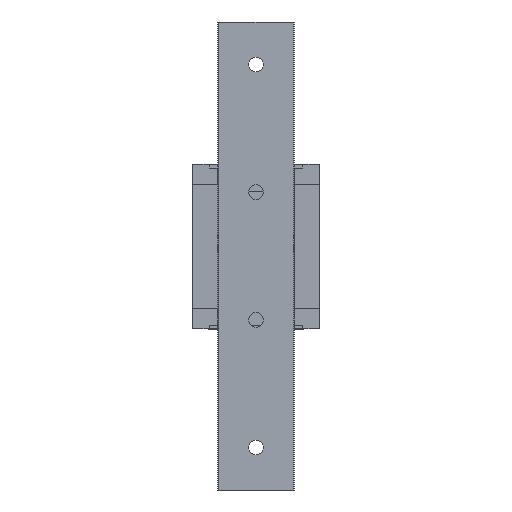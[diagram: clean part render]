
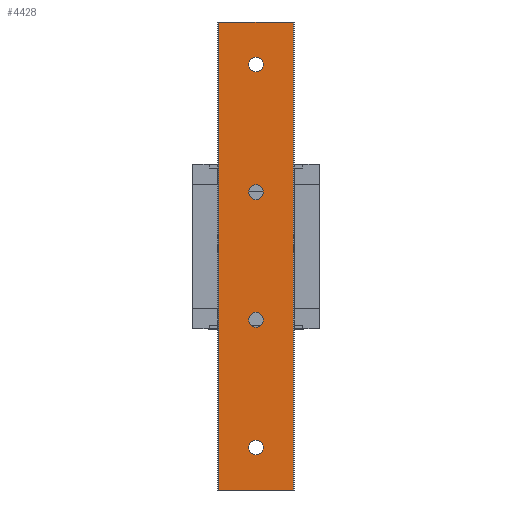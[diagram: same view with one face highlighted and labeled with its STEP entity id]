
A CAD part, front view. The second image highlights one B-rep face of the part: STEP entity #4428.
In plain terms, the highlighted planar face has unit normal (0, -1, 0).
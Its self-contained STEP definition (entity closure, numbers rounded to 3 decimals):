
#339 = ORIENTED_EDGE ( 'NONE', *, *, #10589, .T. ) ;
#472 = DIRECTION ( 'NONE',  ( 0., 0., 1. ) ) ;
#593 = EDGE_CURVE ( 'NONE', #5235, #12510, #9717, .T. ) ;
#596 = AXIS2_PLACEMENT_3D ( 'NONE', #8360, #3088, #5180 ) ;
#789 = CARTESIAN_POINT ( 'NONE',  ( 0., 0., 8.25 ) ) ;
#792 = CARTESIAN_POINT ( 'NONE',  ( -8.7, 0., 0. ) ) ;
#886 = DIRECTION ( 'NONE',  ( 0., 0., 1. ) ) ;
#917 = CARTESIAN_POINT ( 'NONE',  ( 0., 0., 70. ) ) ;
#1026 = AXIS2_PLACEMENT_3D ( 'NONE', #13105, #11945, #472 ) ;
#1135 = VERTEX_POINT ( 'NONE', #2681 ) ;
#1199 = EDGE_CURVE ( 'NONE', #9736, #1135, #12484, .T. ) ;
#1238 = DIRECTION ( 'NONE',  ( 0., 0., 1. ) ) ;
#1279 = AXIS2_PLACEMENT_3D ( 'NONE', #3322, #7585, #1238 ) ;
#1346 = AXIS2_PLACEMENT_3D ( 'NONE', #8924, #8859, #11952 ) ;
#1431 = FACE_BOUND ( 'NONE', #12179, .T. ) ;
#1529 = EDGE_CURVE ( 'NONE', #4106, #2552, #8355, .T. ) ;
#1569 = VERTEX_POINT ( 'NONE', #2421 ) ;
#1717 = EDGE_CURVE ( 'NONE', #12821, #8703, #4863, .T. ) ;
#1902 = EDGE_CURVE ( 'NONE', #11064, #7768, #13351, .T. ) ;
#1913 = CARTESIAN_POINT ( 'NONE',  ( 0., 0., 98.25 ) ) ;
#1937 = CARTESIAN_POINT ( 'NONE',  ( 0., 0., 40. ) ) ;
#1947 = CARTESIAN_POINT ( 'NONE',  ( 0., 0., 41.75 ) ) ;
#2027 = CARTESIAN_POINT ( 'NONE',  ( 0., 0., 68.25 ) ) ;
#2204 = LINE ( 'NONE', #12586, #6201 ) ;
#2368 = ORIENTED_EDGE ( 'NONE', *, *, #1529, .T. ) ;
#2421 = CARTESIAN_POINT ( 'NONE',  ( -8.7, 0., 0. ) ) ;
#2538 = LINE ( 'NONE', #9980, #6878 ) ;
#2552 = VERTEX_POINT ( 'NONE', #6925 ) ;
#2653 = DIRECTION ( 'NONE',  ( 0., 0., 1. ) ) ;
#2676 = EDGE_CURVE ( 'NONE', #2552, #4106, #9044, .T. ) ;
#2681 = CARTESIAN_POINT ( 'NONE',  ( 0., 0., 11.75 ) ) ;
#3088 = DIRECTION ( 'NONE',  ( 0., 1., 0. ) ) ;
#3106 = DIRECTION ( 'NONE',  ( 1., 0., 0. ) ) ;
#3185 = CIRCLE ( 'NONE', #596, 1.75 ) ;
#3322 = CARTESIAN_POINT ( 'NONE',  ( -8.7, 0., 110. ) ) ;
#3387 = EDGE_CURVE ( 'NONE', #5235, #1569, #2204, .T. ) ;
#3774 = ORIENTED_EDGE ( 'NONE', *, *, #4612, .T. ) ;
#4025 = DIRECTION ( 'NONE',  ( 0., 1., 0. ) ) ;
#4096 = EDGE_CURVE ( 'NONE', #1135, #9736, #3185, .T. ) ;
#4106 = VERTEX_POINT ( 'NONE', #2027 ) ;
#4305 = FACE_OUTER_BOUND ( 'NONE', #6484, .T. ) ;
#4428 = ADVANCED_FACE ( 'NONE', ( #11444, #12732, #4305, #1431, #12008 ), #8554, .F. ) ;
#4612 = EDGE_CURVE ( 'NONE', #8703, #12821, #9678, .T. ) ;
#4863 = CIRCLE ( 'NONE', #1346, 1.75 ) ;
#4886 = AXIS2_PLACEMENT_3D ( 'NONE', #6647, #9817, #7626 ) ;
#5180 = DIRECTION ( 'NONE',  ( 0., 0., 1. ) ) ;
#5201 = AXIS2_PLACEMENT_3D ( 'NONE', #10139, #7985, #2653 ) ;
#5235 = VERTEX_POINT ( 'NONE', #11063 ) ;
#5283 = ORIENTED_EDGE ( 'NONE', *, *, #1199, .T. ) ;
#5284 = CARTESIAN_POINT ( 'NONE',  ( 8.7, 0., 0. ) ) ;
#5346 = EDGE_CURVE ( 'NONE', #12510, #5758, #2538, .T. ) ;
#5517 = AXIS2_PLACEMENT_3D ( 'NONE', #7190, #4025, #10271 ) ;
#5758 = VERTEX_POINT ( 'NONE', #5284 ) ;
#5963 = VECTOR ( 'NONE', #6187, 1000. ) ;
#6140 = LINE ( 'NONE', #792, #5963 ) ;
#6187 = DIRECTION ( 'NONE',  ( 1., 0., 0. ) ) ;
#6201 = VECTOR ( 'NONE', #7359, 1000. ) ;
#6267 = CARTESIAN_POINT ( 'NONE',  ( -8.7, 0., 110. ) ) ;
#6357 = AXIS2_PLACEMENT_3D ( 'NONE', #1937, #7382, #11964 ) ;
#6484 = EDGE_LOOP ( 'NONE', ( #339, #10727, #9865, #7442 ) ) ;
#6647 = CARTESIAN_POINT ( 'NONE',  ( 0., 0., 40. ) ) ;
#6696 = EDGE_LOOP ( 'NONE', ( #11433, #2368 ) ) ;
#6805 = ORIENTED_EDGE ( 'NONE', *, *, #11888, .T. ) ;
#6878 = VECTOR ( 'NONE', #9798, 1000. ) ;
#6897 = CIRCLE ( 'NONE', #6357, 1.75 ) ;
#6925 = CARTESIAN_POINT ( 'NONE',  ( 0., 0., 71.75 ) ) ;
#7190 = CARTESIAN_POINT ( 'NONE',  ( 0., 0., 10. ) ) ;
#7206 = DIRECTION ( 'NONE',  ( 0., 1., 0. ) ) ;
#7359 = DIRECTION ( 'NONE',  ( 0., 0., -1. ) ) ;
#7382 = DIRECTION ( 'NONE',  ( 0., 1., 0. ) ) ;
#7442 = ORIENTED_EDGE ( 'NONE', *, *, #3387, .T. ) ;
#7585 = DIRECTION ( 'NONE',  ( 0., 1., 0. ) ) ;
#7596 = EDGE_LOOP ( 'NONE', ( #10568, #3774 ) ) ;
#7626 = DIRECTION ( 'NONE',  ( 0., 0., 1. ) ) ;
#7768 = VERTEX_POINT ( 'NONE', #1947 ) ;
#7879 = ORIENTED_EDGE ( 'NONE', *, *, #4096, .T. ) ;
#7985 = DIRECTION ( 'NONE',  ( 0., 1., 0. ) ) ;
#8173 = EDGE_LOOP ( 'NONE', ( #7879, #5283 ) ) ;
#8355 = CIRCLE ( 'NONE', #1026, 1.75 ) ;
#8360 = CARTESIAN_POINT ( 'NONE',  ( 0., 0., 10. ) ) ;
#8554 = PLANE ( 'NONE',  #1279 ) ;
#8703 = VERTEX_POINT ( 'NONE', #1913 ) ;
#8859 = DIRECTION ( 'NONE',  ( 0., 1., 0. ) ) ;
#8924 = CARTESIAN_POINT ( 'NONE',  ( 0., 0., 100. ) ) ;
#9044 = CIRCLE ( 'NONE', #11435, 1.75 ) ;
#9678 = CIRCLE ( 'NONE', #5201, 1.75 ) ;
#9717 = LINE ( 'NONE', #6267, #10033 ) ;
#9736 = VERTEX_POINT ( 'NONE', #789 ) ;
#9798 = DIRECTION ( 'NONE',  ( 0., 0., -1. ) ) ;
#9817 = DIRECTION ( 'NONE',  ( 0., 1., 0. ) ) ;
#9865 = ORIENTED_EDGE ( 'NONE', *, *, #593, .F. ) ;
#9980 = CARTESIAN_POINT ( 'NONE',  ( 8.7, 0., 110. ) ) ;
#10033 = VECTOR ( 'NONE', #3106, 1000. ) ;
#10139 = CARTESIAN_POINT ( 'NONE',  ( 0., 0., 100. ) ) ;
#10271 = DIRECTION ( 'NONE',  ( 0., 0., 1. ) ) ;
#10568 = ORIENTED_EDGE ( 'NONE', *, *, #1717, .T. ) ;
#10589 = EDGE_CURVE ( 'NONE', #1569, #5758, #6140, .T. ) ;
#10727 = ORIENTED_EDGE ( 'NONE', *, *, #5346, .F. ) ;
#10976 = CARTESIAN_POINT ( 'NONE',  ( 8.7, 0., 110. ) ) ;
#11008 = ORIENTED_EDGE ( 'NONE', *, *, #1902, .T. ) ;
#11063 = CARTESIAN_POINT ( 'NONE',  ( -8.7, 0., 110. ) ) ;
#11064 = VERTEX_POINT ( 'NONE', #13065 ) ;
#11433 = ORIENTED_EDGE ( 'NONE', *, *, #2676, .T. ) ;
#11435 = AXIS2_PLACEMENT_3D ( 'NONE', #917, #7206, #886 ) ;
#11444 = FACE_BOUND ( 'NONE', #6696, .T. ) ;
#11888 = EDGE_CURVE ( 'NONE', #7768, #11064, #6897, .T. ) ;
#11945 = DIRECTION ( 'NONE',  ( 0., 1., 0. ) ) ;
#11952 = DIRECTION ( 'NONE',  ( 0., 0., 1. ) ) ;
#11964 = DIRECTION ( 'NONE',  ( 0., 0., 1. ) ) ;
#12008 = FACE_BOUND ( 'NONE', #8173, .T. ) ;
#12179 = EDGE_LOOP ( 'NONE', ( #6805, #11008 ) ) ;
#12264 = CARTESIAN_POINT ( 'NONE',  ( 0., 0., 101.75 ) ) ;
#12484 = CIRCLE ( 'NONE', #5517, 1.75 ) ;
#12510 = VERTEX_POINT ( 'NONE', #10976 ) ;
#12586 = CARTESIAN_POINT ( 'NONE',  ( -8.7, 0., 110. ) ) ;
#12732 = FACE_BOUND ( 'NONE', #7596, .T. ) ;
#12821 = VERTEX_POINT ( 'NONE', #12264 ) ;
#13065 = CARTESIAN_POINT ( 'NONE',  ( 0., 0., 38.25 ) ) ;
#13105 = CARTESIAN_POINT ( 'NONE',  ( 0., 0., 70. ) ) ;
#13351 = CIRCLE ( 'NONE', #4886, 1.75 ) ;
